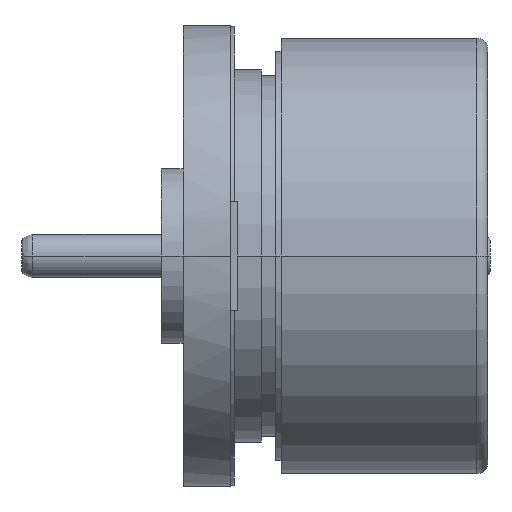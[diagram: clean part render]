
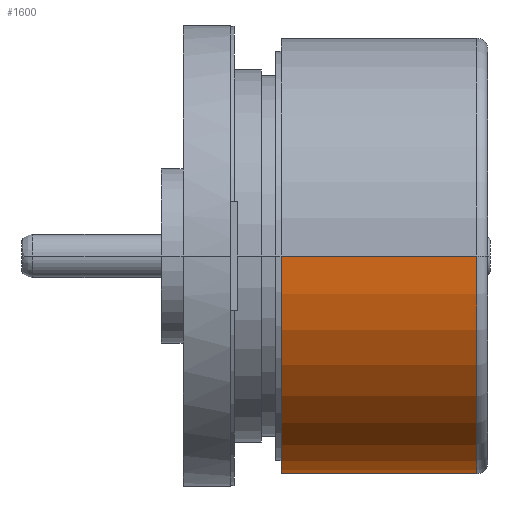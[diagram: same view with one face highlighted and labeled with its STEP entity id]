
A CAD part, front view. The second image highlights one B-rep face of the part: STEP entity #1600.
In plain terms, the highlighted cylindrical face has radius 10 mm (diameter 20 mm), a partial arc.
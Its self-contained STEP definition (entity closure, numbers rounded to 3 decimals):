
#471=CARTESIAN_POINT('',(2.3,0.,0.));
#472=DIRECTION('',(-1.,0.,0.));
#473=DIRECTION('',(0.,1.,0.));
#474=AXIS2_PLACEMENT_3D('',#471,#472,#473);
#487=CARTESIAN_POINT('',(11.3,0.,0.));
#488=DIRECTION('',(-1.,0.,0.));
#489=DIRECTION('',(0.,1.,0.));
#490=AXIS2_PLACEMENT_3D('',#487,#488,#489);
#495=DIRECTION('',(-1.,0.,0.));
#496=VECTOR('',#495,9.);
#497=CARTESIAN_POINT('',(11.3,10.,0.));
#498=LINE('',#497,#496);
#510=DIRECTION('',(-1.,0.,0.));
#511=VECTOR('',#510,9.);
#512=CARTESIAN_POINT('',(11.3,-10.,0.));
#513=LINE('',#512,#511);
#1097=CARTESIAN_POINT('',(11.3,10.,0.));
#1099=VERTEX_POINT('',#1097);
#1100=CARTESIAN_POINT('',(2.3,10.,0.));
#1101=VERTEX_POINT('',#1100);
#1119=CARTESIAN_POINT('',(11.3,-10.,0.));
#1121=VERTEX_POINT('',#1119);
#1122=CARTESIAN_POINT('',(2.3,-10.,0.));
#1123=VERTEX_POINT('',#1122);
#1586=CARTESIAN_POINT('',(12.975,0.,0.));
#1587=DIRECTION('',(-1.,0.,0.));
#1588=DIRECTION('',(0.,1.,0.));
#1589=AXIS2_PLACEMENT_3D('',#1586,#1587,#1588);
#1590=CYLINDRICAL_SURFACE('',#1589,10.);
#1592=ORIENTED_EDGE('',*,*,#1591,.T.);
#1593=ORIENTED_EDGE('',*,*,#1575,.T.);
#1595=ORIENTED_EDGE('',*,*,#1594,.F.);
#1597=ORIENTED_EDGE('',*,*,#1596,.F.);
#1598=EDGE_LOOP('',(#1592,#1593,#1595,#1597));
#1599=FACE_OUTER_BOUND('',#1598,.F.);
#1600=ADVANCED_FACE('',(#1599),#1590,.T.);
#475=CIRCLE('',#474,10.);
#491=CIRCLE('',#490,10.);
#1575=EDGE_CURVE('',#1101,#1123,#475,.T.);
#1591=EDGE_CURVE('',#1099,#1101,#498,.T.);
#1594=EDGE_CURVE('',#1121,#1123,#513,.T.);
#1596=EDGE_CURVE('',#1099,#1121,#491,.T.);
